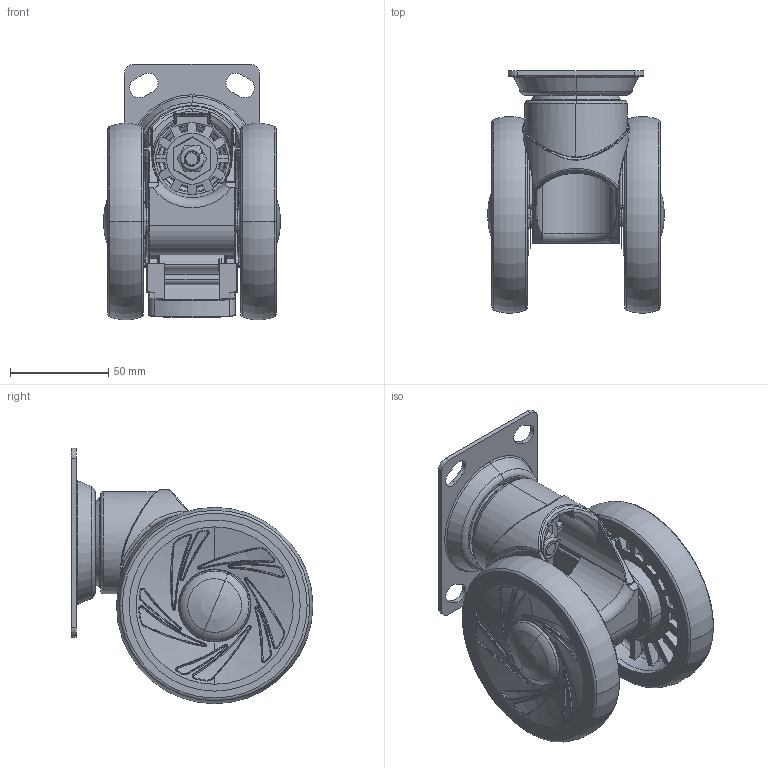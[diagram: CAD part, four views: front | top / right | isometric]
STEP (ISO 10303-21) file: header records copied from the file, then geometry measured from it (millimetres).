
FILE_DESCRIPTION((''),'2;1');
FILE_NAME('PRT0002','2026-04-16T18:22:31',('Administrator'),(''),'CREO PARAMETRIC BY PTC INC, 2022124','CREO PARAMETRIC BY PTC INC, 2022124','');
FILE_SCHEMA(('AUTOMOTIVE_DESIGN { 1 0 10303 214 1 1 1 1 }'));
Length unit declared in the file: millimetre
Products named in the file (1): PRT0002
Bounding box: 90 x 122.94 x 129.94 mm (x, y, z)
Surface area: 110540 mm2 (no closed solid volume)
Topology: 0 solids, 48 shells, 926 faces, 3732 edges, 2709 vertices
Faces by surface type: bspline 280, plane 255, torus 181, cylinder 155, cone 43, sphere 8, extrusion 4
Entity records: 67024 total; most frequent: CARTESIAN_POINT 33168, ORIENTED_EDGE 5573, DIRECTION 4964, EDGE_CURVE 3714, VERTEX_POINT 2705, AXIS2_PLACEMENT_3D 1999, B_SPLINE_CURVE_WITH_KNOTS 1412, CIRCLE 1347
